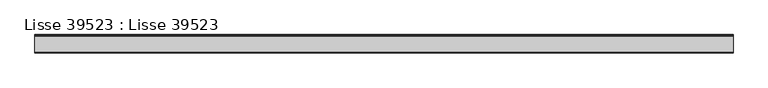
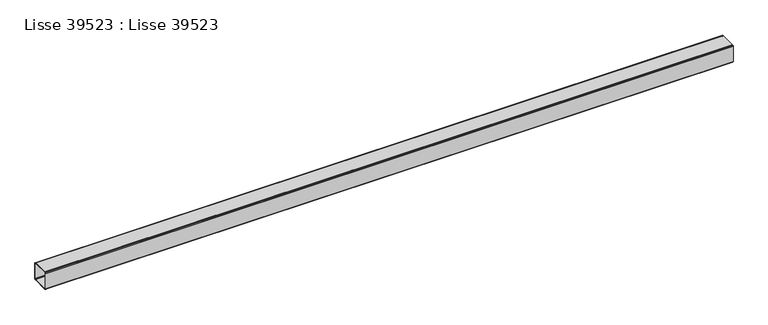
"""IFC4 building model written with IfcOpenShell, lengths in millimetres: beam geometry, Lisse 39523 : Lisse 39523."""

from ifc_helpers import new_model, si_unit, frame, origin, place, context, project, spatial, polyline, outline, extrude, source, transform, mapped, element, save


def lisse_39523_lisse_39523_e274b475(model_context):
    return source(origin(), model_context, "Body", "SweptSolid", [
        extrude(outline(polyline([(-29098.6461524, 8319.7356589), (-29096.45, 8321.9318113), (-29093.45, 8322.7356589), (-29005.45, 8322.7356589), (-29002.45, 8321.9318113), (-29000.2538476, 8319.7356589), (-28999.45, 8316.7356589), (-28999.45, 8228.7356589), (-29000.2538476, 8225.7356589), (-29002.45, 8223.5395065), (-29005.45, 8222.7356589), (-29093.45, 8222.7356589), (-29096.45, 8223.5395065), (-29098.6461524, 8225.7356589), (-29099.45, 8228.7356589), (-29099.45, 8316.7356589), (-29098.6461524, 8319.7356589)]), holes=[polyline([(-29093.45, 8318.1997605), (-29094.9141016, 8316.7356589), (-29095.45, 8314.7356589), (-29095.45, 8230.7356589), (-29094.9141016, 8228.7356589), (-29093.45, 8227.2715573), (-29091.45, 8226.7356589), (-29007.45, 8226.7356589), (-29005.45, 8227.2715573), (-29003.9858984, 8228.7356589), (-29003.45, 8230.7356589), (-29003.45, 8314.7356589), (-29003.9858984, 8316.7356589), (-29005.45, 8318.1997605), (-29007.45, 8318.7356589), (-29091.45, 8318.7356589), (-29093.45, 8318.1997605)])]), frame((11557.2815707, 0.0, 0.0), z_axis=(1.0, 0.0, 0.0), x_axis=(0.0, 1.0, 0.0)), (0.0, 0.0, 1.0), 3782.7184292),
    ])


if __name__ == "__main__":
    model = new_model("IFC4")
    model_context = context("Model", 3, world=origin())
    ifc_project = project(units=[si_unit("LENGTHUNIT", "METRE", prefix="MILLI")], contexts=[model_context])
    site = spatial("IfcSite", under=ifc_project)
    building = spatial("IfcBuilding", under=site)
    placement = place(None, origin())
    lisse_39523_lisse_39523_shape = lisse_39523_lisse_39523_e274b475(model_context)
    element("IfcBeam", 1, ObjectType="Lisse 39523 : Lisse 39523", at=placement, inside=building, context=model_context, shape_type="MappedRepresentation", body=[
        mapped(lisse_39523_lisse_39523_shape, transform((0.0, 0.0, 0.0), x_axis=(1.0, 0.0, 0.0), y_axis=(0.0, 1.0, 0.0), z_axis=(0.0, 0.0, 1.0))),
    ])
    save(model, "model.ifc")
